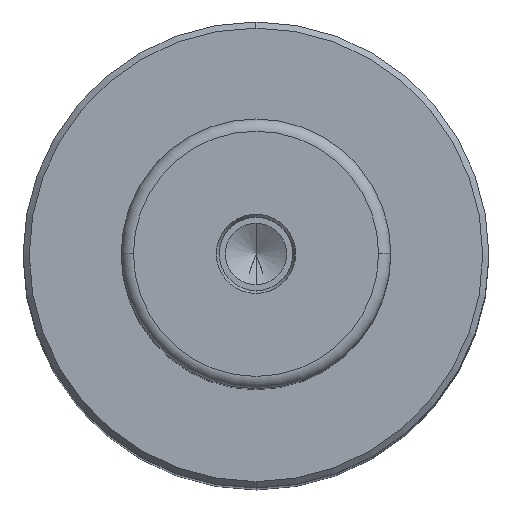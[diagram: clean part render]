
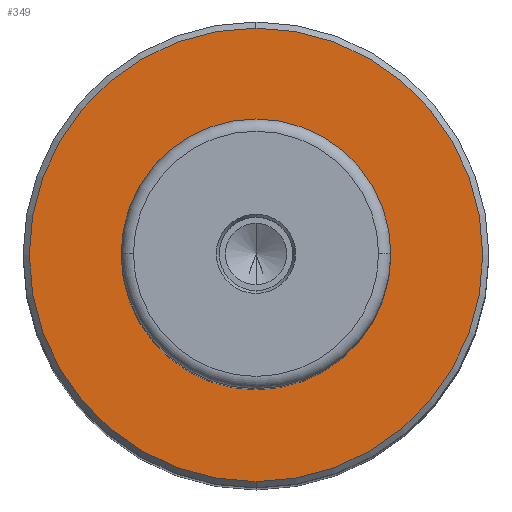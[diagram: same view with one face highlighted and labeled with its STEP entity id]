
A CAD part, top view. The second image highlights one B-rep face of the part: STEP entity #349.
In plain terms, the highlighted planar face has unit normal (0, 0, 1).
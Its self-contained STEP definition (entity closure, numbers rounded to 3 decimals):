
#252 = VERTEX_POINT('',#253);
#253 = CARTESIAN_POINT('',(0.,18.5,104.));
#259 = EDGE_CURVE('',#260,#252,#262,.T.);
#260 = VERTEX_POINT('',#261);
#261 = CARTESIAN_POINT('',(0.,-18.5,104.));
#262 = CIRCLE('',#263,18.5);
#263 = AXIS2_PLACEMENT_3D('',#264,#265,#266);
#264 = CARTESIAN_POINT('',(0.,0.,104.));
#265 = DIRECTION('',(0.,0.,1.));
#266 = DIRECTION('',(0.,1.,0.));
#286 = EDGE_CURVE('',#252,#260,#287,.T.);
#287 = CIRCLE('',#288,18.5);
#288 = AXIS2_PLACEMENT_3D('',#289,#290,#291);
#289 = CARTESIAN_POINT('',(0.,0.,104.));
#290 = DIRECTION('',(0.,0.,1.));
#291 = DIRECTION('',(0.,1.,0.));
#349 = ADVANCED_FACE('',(#350,#370),#374,.T.);
#350 = FACE_BOUND('',#351,.T.);
#351 = EDGE_LOOP('',(#352,#363));
#352 = ORIENTED_EDGE('',*,*,#353,.F.);
#353 = EDGE_CURVE('',#354,#356,#358,.T.);
#354 = VERTEX_POINT('',#355);
#355 = CARTESIAN_POINT('',(0.,11.,104.));
#356 = VERTEX_POINT('',#357);
#357 = CARTESIAN_POINT('',(0.,-11.,104.));
#358 = CIRCLE('',#359,11.);
#359 = AXIS2_PLACEMENT_3D('',#360,#361,#362);
#360 = CARTESIAN_POINT('',(0.,0.,104.));
#361 = DIRECTION('',(0.,0.,1.));
#362 = DIRECTION('',(0.,1.,0.));
#363 = ORIENTED_EDGE('',*,*,#364,.F.);
#364 = EDGE_CURVE('',#356,#354,#365,.T.);
#365 = CIRCLE('',#366,11.);
#366 = AXIS2_PLACEMENT_3D('',#367,#368,#369);
#367 = CARTESIAN_POINT('',(0.,0.,104.));
#368 = DIRECTION('',(0.,0.,1.));
#369 = DIRECTION('',(0.,1.,0.));
#370 = FACE_BOUND('',#371,.T.);
#371 = EDGE_LOOP('',(#372,#373));
#372 = ORIENTED_EDGE('',*,*,#286,.T.);
#373 = ORIENTED_EDGE('',*,*,#259,.T.);
#374 = PLANE('',#375);
#375 = AXIS2_PLACEMENT_3D('',#376,#377,#378);
#376 = CARTESIAN_POINT('',(0.,14.75,104.));
#377 = DIRECTION('',(0.,0.,1.));
#378 = DIRECTION('',(0.,1.,0.));
